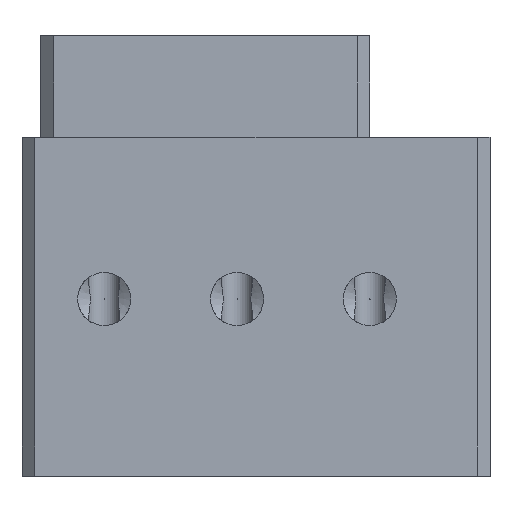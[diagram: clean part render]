
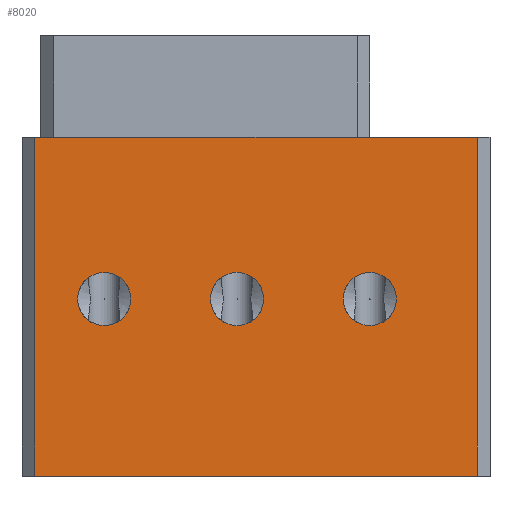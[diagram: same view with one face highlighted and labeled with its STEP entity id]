
A CAD part, left-side view. The second image highlights one B-rep face of the part: STEP entity #8020.
In plain terms, the highlighted planar face has unit normal (-1, 0, 0).
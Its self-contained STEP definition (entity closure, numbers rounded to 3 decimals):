
#232=FACE_BOUND('',#1264,.T.);
#233=FACE_BOUND('',#1265,.T.);
#234=FACE_BOUND('',#1266,.T.);
#391=PLANE('',#8887);
#777=FACE_OUTER_BOUND('',#1263,.T.);
#1263=EDGE_LOOP('',(#6970,#6971,#6972,#6973));
#1264=EDGE_LOOP('',(#6974,#6975));
#1265=EDGE_LOOP('',(#6976,#6977));
#1266=EDGE_LOOP('',(#6978,#6979));
#1636=LINE('',#13346,#2144);
#1846=LINE('',#14540,#2354);
#1848=LINE('',#14556,#2356);
#1851=LINE('',#14561,#2359);
#2144=VECTOR('',#9807,10.);
#2354=VECTOR('',#10687,10.);
#2356=VECTOR('',#10705,10.);
#2359=VECTOR('',#10712,10.);
#2869=CIRCLE('',#8849,2.1);
#2870=CIRCLE('',#8850,2.1);
#2871=CIRCLE('',#8853,2.1);
#2872=CIRCLE('',#8854,2.1);
#2873=CIRCLE('',#8857,2.1);
#2874=CIRCLE('',#8858,2.1);
#3257=VERTEX_POINT('',#13343);
#3258=VERTEX_POINT('',#13345);
#3515=VERTEX_POINT('',#14525);
#3521=VERTEX_POINT('',#14538);
#3631=VERTEX_POINT('',#15466);
#3632=VERTEX_POINT('',#15467);
#3634=VERTEX_POINT('',#15475);
#3635=VERTEX_POINT('',#15476);
#3637=VERTEX_POINT('',#15484);
#3638=VERTEX_POINT('',#15485);
#4174=EDGE_CURVE('',#3258,#3257,#1636,.T.);
#4577=EDGE_CURVE('',#3515,#3521,#1846,.T.);
#4585=EDGE_CURVE('',#3515,#3257,#1848,.T.);
#4588=EDGE_CURVE('',#3258,#3521,#1851,.T.);
#4737=EDGE_CURVE('',#3631,#3632,#2869,.T.);
#4738=EDGE_CURVE('',#3632,#3631,#2870,.T.);
#4741=EDGE_CURVE('',#3634,#3635,#2871,.T.);
#4742=EDGE_CURVE('',#3635,#3634,#2872,.T.);
#4745=EDGE_CURVE('',#3637,#3638,#2873,.T.);
#4746=EDGE_CURVE('',#3638,#3637,#2874,.T.);
#6970=ORIENTED_EDGE('',*,*,#4585,.F.);
#6971=ORIENTED_EDGE('',*,*,#4577,.T.);
#6972=ORIENTED_EDGE('',*,*,#4588,.F.);
#6973=ORIENTED_EDGE('',*,*,#4174,.T.);
#6974=ORIENTED_EDGE('',*,*,#4737,.T.);
#6975=ORIENTED_EDGE('',*,*,#4738,.T.);
#6976=ORIENTED_EDGE('',*,*,#4741,.T.);
#6977=ORIENTED_EDGE('',*,*,#4742,.T.);
#6978=ORIENTED_EDGE('',*,*,#4745,.T.);
#6979=ORIENTED_EDGE('',*,*,#4746,.T.);
#8020=ADVANCED_FACE('',(#777,#232,#233,#234),#391,.T.);
#8849=AXIS2_PLACEMENT_3D('',#15468,#10967,#10968);
#8850=AXIS2_PLACEMENT_3D('',#15469,#10969,#10970);
#8853=AXIS2_PLACEMENT_3D('',#15477,#10977,#10978);
#8854=AXIS2_PLACEMENT_3D('',#15478,#10979,#10980);
#8857=AXIS2_PLACEMENT_3D('',#15486,#10987,#10988);
#8858=AXIS2_PLACEMENT_3D('',#15487,#10989,#10990);
#8887=AXIS2_PLACEMENT_3D('',#15543,#11062,#11063);
#9807=DIRECTION('',(0.,1.,0.));
#10687=DIRECTION('',(0.,-1.,0.));
#10705=DIRECTION('',(0.,0.,1.));
#10712=DIRECTION('',(0.,0.,-1.));
#10967=DIRECTION('center_axis',(1.,0.,0.));
#10968=DIRECTION('ref_axis',(0.,0.,-1.));
#10969=DIRECTION('center_axis',(1.,0.,0.));
#10970=DIRECTION('ref_axis',(0.,0.,-1.));
#10977=DIRECTION('center_axis',(1.,0.,0.));
#10978=DIRECTION('ref_axis',(0.,0.,-1.));
#10979=DIRECTION('center_axis',(1.,0.,0.));
#10980=DIRECTION('ref_axis',(0.,0.,-1.));
#10987=DIRECTION('center_axis',(1.,0.,0.));
#10988=DIRECTION('ref_axis',(0.,0.,-1.));
#10989=DIRECTION('center_axis',(1.,0.,0.));
#10990=DIRECTION('ref_axis',(0.,0.,-1.));
#11062=DIRECTION('center_axis',(-1.,0.,0.));
#11063=DIRECTION('ref_axis',(0.,0.,1.));
#13343=CARTESIAN_POINT('',(-27.,36.,0.));
#13345=CARTESIAN_POINT('',(-27.,1.,0.));
#13346=CARTESIAN_POINT('',(-27.,0.,0.));
#14525=CARTESIAN_POINT('',(-27.,36.,-26.8));
#14538=CARTESIAN_POINT('',(-27.,1.,-26.8));
#14540=CARTESIAN_POINT('',(-27.,0.,-26.8));
#14556=CARTESIAN_POINT('',(-27.,36.,0.));
#14561=CARTESIAN_POINT('',(-27.,1.,0.));
#15466=CARTESIAN_POINT('',(-27.,30.5,-14.9));
#15467=CARTESIAN_POINT('',(-27.,30.5,-10.7));
#15468=CARTESIAN_POINT('Origin',(-27.,30.5,-12.8));
#15469=CARTESIAN_POINT('Origin',(-27.,30.5,-12.8));
#15475=CARTESIAN_POINT('',(-27.,20.,-14.9));
#15476=CARTESIAN_POINT('',(-27.,20.,-10.7));
#15477=CARTESIAN_POINT('Origin',(-27.,20.,-12.8));
#15478=CARTESIAN_POINT('Origin',(-27.,20.,-12.8));
#15484=CARTESIAN_POINT('',(-27.,9.5,-14.9));
#15485=CARTESIAN_POINT('',(-27.,9.5,-10.7));
#15486=CARTESIAN_POINT('Origin',(-27.,9.5,-12.8));
#15487=CARTESIAN_POINT('Origin',(-27.,9.5,-12.8));
#15543=CARTESIAN_POINT('Origin',(-27.,37.,0.));
